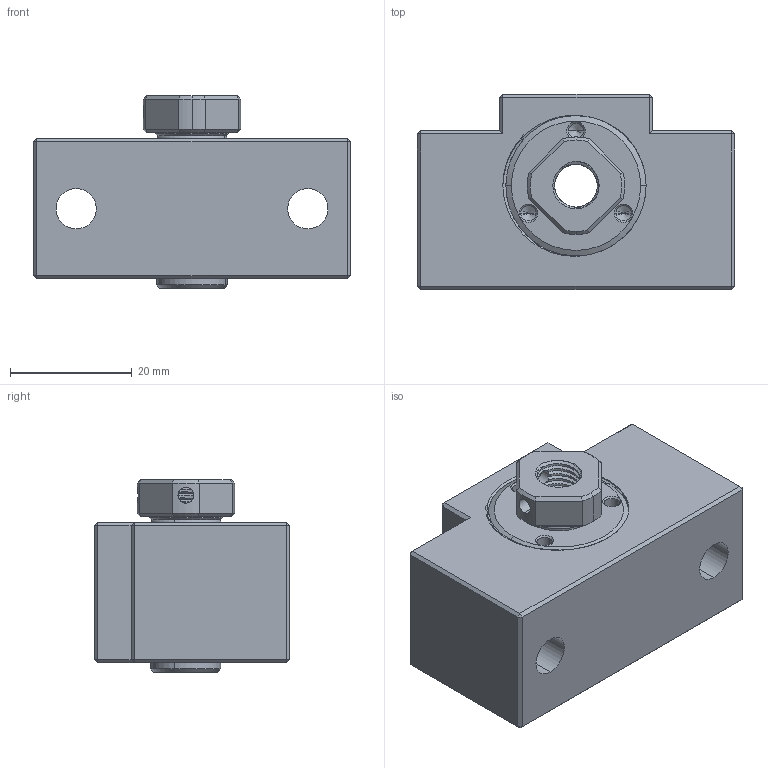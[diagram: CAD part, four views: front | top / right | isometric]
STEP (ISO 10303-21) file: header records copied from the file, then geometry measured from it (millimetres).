
FILE_DESCRIPTION (( 'STEP AP203' ), '1' );
FILE_NAME ('EK08²Õ¦X.STEP', '2010-07-02T01:14:54', ( '' ), ( '' ), 'SwSTEP 2.0', 'SolidWorks 2008', '' );
FILE_SCHEMA (( 'CONFIG_CONTROL_DESIGN' ));
Products named in the file (1): EK08組合
Bounding box: 52 x 32 x 31.5 mm (x, y, z)
Volume: 28992.8 mm3; surface area: 19887 mm2
Topology: 30 solids, 30 shells, 1454 faces, 3359 edges, 1886 vertices
Faces by surface type: cylinder 442, torus 262, sphere 252, plane 227, bspline 213, cone 58
Entity records: 53649 total; most frequent: CARTESIAN_POINT 23213, DIRECTION 6738, ORIENTED_EDGE 6278, EDGE_CURVE 3139, AXIS2_PLACEMENT_3D 2969, VERTEX_POINT 1760, CIRCLE 1727, EDGE_LOOP 1509
